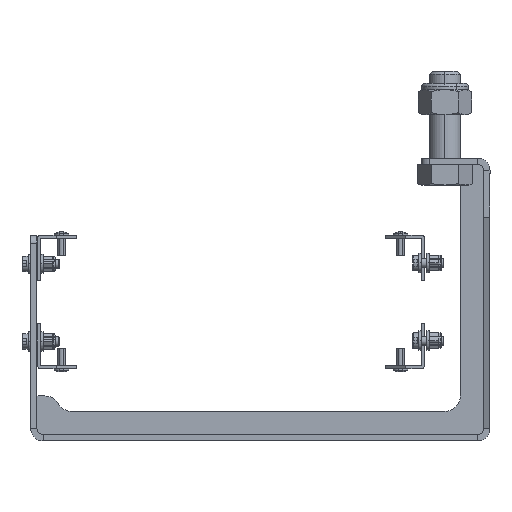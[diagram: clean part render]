
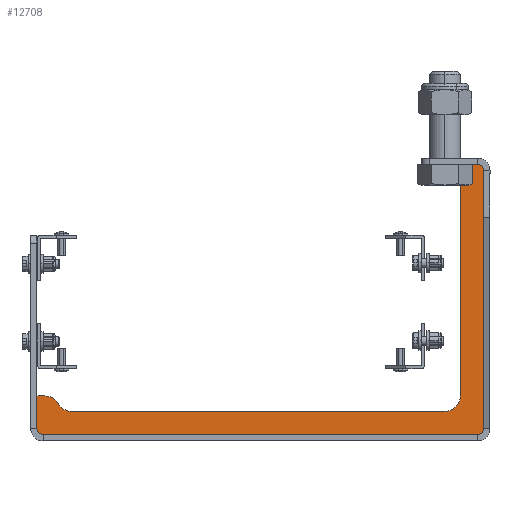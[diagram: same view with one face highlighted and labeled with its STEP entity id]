
A CAD part, left-side view. The second image highlights one B-rep face of the part: STEP entity #12708.
In plain terms, the highlighted planar face has unit normal (-1, 0, 0) as drawn and (0, 0, -1) by its records, which use the part's own axes.
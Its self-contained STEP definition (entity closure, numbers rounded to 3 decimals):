
#12 = ORIENTED_EDGE ( 'NONE', *, *, #3972, .T. ) ;
#127 = CIRCLE ( 'NONE', #4416, 10. ) ;
#140 = EDGE_CURVE ( 'NONE', #8643, #7042, #11074, .T. ) ;
#237 = VERTEX_POINT ( 'NONE', #8413 ) ;
#372 = VERTEX_POINT ( 'NONE', #14362 ) ;
#494 = ORIENTED_EDGE ( 'NONE', *, *, #10196, .T. ) ;
#621 = CARTESIAN_POINT ( 'NONE',  ( 64., -5., -26.5 ) ) ;
#657 = DIRECTION ( 'NONE',  ( 0., 1., 0. ) ) ;
#1052 = ORIENTED_EDGE ( 'NONE', *, *, #13819, .T. ) ;
#1066 = DIRECTION ( 'NONE',  ( 0., 1., 0. ) ) ;
#1498 = ORIENTED_EDGE ( 'NONE', *, *, #11829, .T. ) ;
#1554 = VERTEX_POINT ( 'NONE', #10209 ) ;
#1720 = DIRECTION ( 'NONE',  ( 0., 1., 0. ) ) ;
#1790 = VERTEX_POINT ( 'NONE', #12753 ) ;
#1842 = ORIENTED_EDGE ( 'NONE', *, *, #14282, .T. ) ;
#1913 = LINE ( 'NONE', #12088, #2975 ) ;
#2125 = DIRECTION ( 'NONE',  ( 0., 0., 1. ) ) ;
#2354 = CARTESIAN_POINT ( 'NONE',  ( 85., -16., -26.5 ) ) ;
#2688 = CARTESIAN_POINT ( 'NONE',  ( -85., -16., -26.5 ) ) ;
#2753 = DIRECTION ( 'NONE',  ( 0., 1., 0. ) ) ;
#2975 = VECTOR ( 'NONE', #14427, 1000. ) ;
#3122 = CIRCLE ( 'NONE', #6764, 10. ) ;
#3258 = DIRECTION ( 'NONE',  ( 0., 1., 0. ) ) ;
#3308 = ORIENTED_EDGE ( 'NONE', *, *, #4624, .T. ) ;
#3602 = VERTEX_POINT ( 'NONE', #4593 ) ;
#3668 = EDGE_CURVE ( 'NONE', #1790, #5566, #7533, .T. ) ;
#3735 = ORIENTED_EDGE ( 'NONE', *, *, #12063, .T. ) ;
#3820 = VECTOR ( 'NONE', #7219, 1000. ) ;
#3949 = DIRECTION ( 'NONE',  ( 0., 1., 0. ) ) ;
#3972 = EDGE_CURVE ( 'NONE', #11704, #5329, #8208, .T. ) ;
#4176 = DIRECTION ( 'NONE',  ( 0., 0., 1. ) ) ;
#4416 = AXIS2_PLACEMENT_3D ( 'NONE', #12204, #4176, #13335 ) ;
#4593 = CARTESIAN_POINT ( 'NONE',  ( 69., 253.84, -26.5 ) ) ;
#4624 = EDGE_CURVE ( 'NONE', #10981, #8643, #14325, .T. ) ;
#4936 = DIRECTION ( 'NONE',  ( 0., 0., -1. ) ) ;
#4980 = DIRECTION ( 'NONE',  ( 0., 0., -1. ) ) ;
#5078 = CARTESIAN_POINT ( 'NONE',  ( 74., -5., -26.5 ) ) ;
#5109 = FACE_OUTER_BOUND ( 'NONE', #14398, .T. ) ;
#5329 = VERTEX_POINT ( 'NONE', #621 ) ;
#5344 = VECTOR ( 'NONE', #2753, 1000. ) ;
#5566 = VERTEX_POINT ( 'NONE', #11237 ) ;
#5690 = DIRECTION ( 'NONE',  ( 0., 1., 0. ) ) ;
#5865 = AXIS2_PLACEMENT_3D ( 'NONE', #11634, #4936, #657 ) ;
#6166 = ORIENTED_EDGE ( 'NONE', *, *, #6763, .T. ) ;
#6430 = CARTESIAN_POINT ( 'NONE',  ( -85., -5., -26.5 ) ) ;
#6763 = EDGE_CURVE ( 'NONE', #372, #10981, #11290, .T. ) ;
#6764 = AXIS2_PLACEMENT_3D ( 'NONE', #10519, #4980, #9545 ) ;
#6790 = CARTESIAN_POINT ( 'NONE',  ( -81., -16., -26.5 ) ) ;
#6818 = CARTESIAN_POINT ( 'NONE',  ( 74., -5., -26.5 ) ) ;
#7020 = CARTESIAN_POINT ( 'NONE',  ( 85., -20., -26.5 ) ) ;
#7042 = VERTEX_POINT ( 'NONE', #10898 ) ;
#7219 = DIRECTION ( 'NONE',  ( 1., 0., 0. ) ) ;
#7386 = CARTESIAN_POINT ( 'NONE',  ( 85., 263.5, -26.5 ) ) ;
#7439 = DIRECTION ( 'NONE',  ( 1., 0., 0. ) ) ;
#7533 = CIRCLE ( 'NONE', #8865, 4. ) ;
#7800 = EDGE_CURVE ( 'NONE', #11896, #1790, #14233, .T. ) ;
#7842 = AXIS2_PLACEMENT_3D ( 'NONE', #7386, #14171, #3949 ) ;
#8186 = EDGE_CURVE ( 'NONE', #3602, #372, #3122, .T. ) ;
#8208 = LINE ( 'NONE', #5078, #13989 ) ;
#8251 = CARTESIAN_POINT ( 'NONE',  ( 64., 252.5, -26.5 ) ) ;
#8292 = VECTOR ( 'NONE', #13393, 1000. ) ;
#8413 = CARTESIAN_POINT ( 'NONE',  ( 89., -16., -26.5 ) ) ;
#8643 = VERTEX_POINT ( 'NONE', #9847 ) ;
#8830 = CARTESIAN_POINT ( 'NONE',  ( 64., 245.179, -26.5 ) ) ;
#8865 = AXIS2_PLACEMENT_3D ( 'NONE', #6790, #12267, #3258 ) ;
#8881 = CARTESIAN_POINT ( 'NONE',  ( 85., -20., -26.5 ) ) ;
#8941 = CARTESIAN_POINT ( 'NONE',  ( 64., 267.5, -26.5 ) ) ;
#9359 = VERTEX_POINT ( 'NONE', #13603 ) ;
#9405 = EDGE_CURVE ( 'NONE', #9359, #3602, #13257, .T. ) ;
#9409 = ORIENTED_EDGE ( 'NONE', *, *, #3668, .T. ) ;
#9531 = ORIENTED_EDGE ( 'NONE', *, *, #7800, .T. ) ;
#9545 = DIRECTION ( 'NONE',  ( 0., 1., 0. ) ) ;
#9573 = ORIENTED_EDGE ( 'NONE', *, *, #8186, .T. ) ;
#9815 = VECTOR ( 'NONE', #5690, 1000. ) ;
#9847 = CARTESIAN_POINT ( 'NONE',  ( 85., 267.5, -26.5 ) ) ;
#10194 = DIRECTION ( 'NONE',  ( 0., 0., -1. ) ) ;
#10196 = EDGE_CURVE ( 'NONE', #5329, #1554, #127, .T. ) ;
#10209 = CARTESIAN_POINT ( 'NONE',  ( 74., 5., -26.5 ) ) ;
#10519 = CARTESIAN_POINT ( 'NONE',  ( 74., 262.5, -26.5 ) ) ;
#10898 = CARTESIAN_POINT ( 'NONE',  ( 89., 263.5, -26.5 ) ) ;
#10902 = LINE ( 'NONE', #2688, #13191 ) ;
#10981 = VERTEX_POINT ( 'NONE', #8941 ) ;
#11074 = CIRCLE ( 'NONE', #7842, 4. ) ;
#11237 = CARTESIAN_POINT ( 'NONE',  ( -85., -16., -26.5 ) ) ;
#11290 = LINE ( 'NONE', #8251, #5344 ) ;
#11634 = CARTESIAN_POINT ( 'NONE',  ( -81., -16., -26.5 ) ) ;
#11704 = VERTEX_POINT ( 'NONE', #6430 ) ;
#11764 = CARTESIAN_POINT ( 'NONE',  ( 85., 267.5, -26.5 ) ) ;
#11829 = EDGE_CURVE ( 'NONE', #237, #11896, #13540, .T. ) ;
#11896 = VERTEX_POINT ( 'NONE', #7020 ) ;
#12063 = EDGE_CURVE ( 'NONE', #5566, #11704, #10902, .T. ) ;
#12088 = CARTESIAN_POINT ( 'NONE',  ( 89., -16., -26.5 ) ) ;
#12204 = CARTESIAN_POINT ( 'NONE',  ( 64., 5., -26.5 ) ) ;
#12267 = DIRECTION ( 'NONE',  ( 0., 0., -1. ) ) ;
#12471 = AXIS2_PLACEMENT_3D ( 'NONE', #8830, #2125, #1066 ) ;
#12502 = ORIENTED_EDGE ( 'NONE', *, *, #140, .T. ) ;
#12708 = ADVANCED_FACE ( 'NONE', ( #5109 ), #14039, .T. ) ;
#12753 = CARTESIAN_POINT ( 'NONE',  ( -81., -20., -26.5 ) ) ;
#12838 = ORIENTED_EDGE ( 'NONE', *, *, #9405, .T. ) ;
#13191 = VECTOR ( 'NONE', #1720, 1000. ) ;
#13257 = CIRCLE ( 'NONE', #12471, 10. ) ;
#13335 = DIRECTION ( 'NONE',  ( 0., 1., 0. ) ) ;
#13375 = DIRECTION ( 'NONE',  ( 0., 1., 0. ) ) ;
#13393 = DIRECTION ( 'NONE',  ( -1., 0., 0. ) ) ;
#13540 = CIRCLE ( 'NONE', #14271, 4. ) ;
#13603 = CARTESIAN_POINT ( 'NONE',  ( 74., 245.179, -26.5 ) ) ;
#13819 = EDGE_CURVE ( 'NONE', #1554, #9359, #14192, .T. ) ;
#13989 = VECTOR ( 'NONE', #7439, 1000. ) ;
#14039 = PLANE ( 'NONE',  #5865 ) ;
#14171 = DIRECTION ( 'NONE',  ( 0., 0., -1. ) ) ;
#14192 = LINE ( 'NONE', #6818, #9815 ) ;
#14233 = LINE ( 'NONE', #8881, #8292 ) ;
#14271 = AXIS2_PLACEMENT_3D ( 'NONE', #2354, #10194, #13375 ) ;
#14282 = EDGE_CURVE ( 'NONE', #7042, #237, #1913, .T. ) ;
#14325 = LINE ( 'NONE', #11764, #3820 ) ;
#14362 = CARTESIAN_POINT ( 'NONE',  ( 64., 262.5, -26.5 ) ) ;
#14398 = EDGE_LOOP ( 'NONE', ( #12, #494, #1052, #12838, #9573, #6166, #3308, #12502, #1842, #1498, #9531, #9409, #3735 ) ) ;
#14427 = DIRECTION ( 'NONE',  ( 0., -1., 0. ) ) ;
